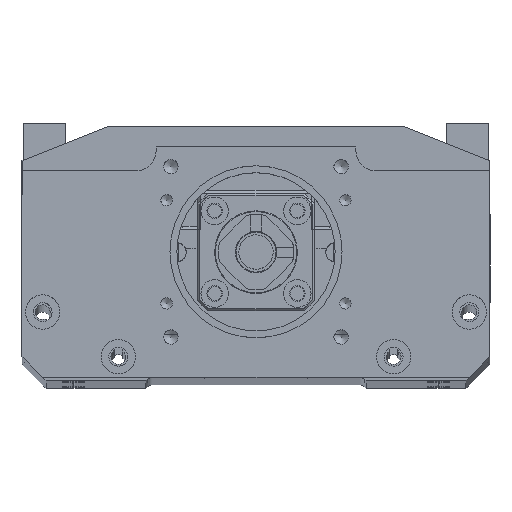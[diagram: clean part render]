
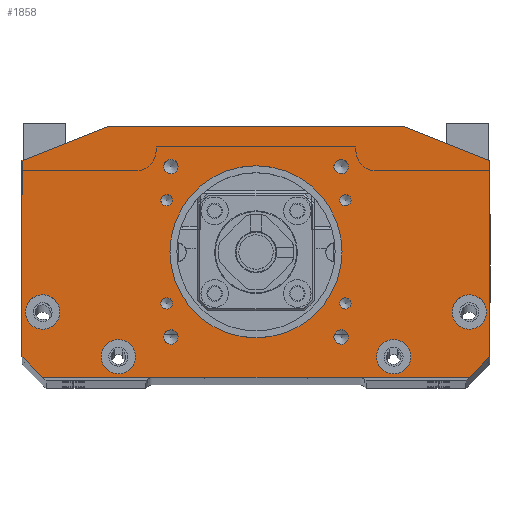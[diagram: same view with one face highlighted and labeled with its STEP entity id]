
A CAD part, top view. The second image highlights one B-rep face of the part: STEP entity #1858.
In plain terms, the highlighted planar face has unit normal (0, 0, 1).
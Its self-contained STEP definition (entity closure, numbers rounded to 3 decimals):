
#396=FACE_BOUND('',#3698,.T.);
#397=FACE_BOUND('',#3699,.T.);
#398=FACE_BOUND('',#3700,.T.);
#399=FACE_BOUND('',#3701,.T.);
#400=FACE_BOUND('',#3702,.T.);
#401=FACE_BOUND('',#3703,.T.);
#402=FACE_BOUND('',#3704,.T.);
#403=FACE_BOUND('',#3705,.T.);
#404=FACE_BOUND('',#3706,.T.);
#405=FACE_BOUND('',#3707,.T.);
#406=FACE_BOUND('',#3708,.T.);
#407=FACE_BOUND('',#3709,.T.);
#408=FACE_BOUND('',#3710,.T.);
#409=FACE_BOUND('',#3711,.T.);
#1858=ADVANCED_FACE('9',(#396,#397,#398,#399,#400,#401,#402,#403,#404,#405,
#406,#407,#408,#409),#2528,.T.);
#2528=PLANE('',#15617);
#3698=EDGE_LOOP('',(#6952));
#3699=EDGE_LOOP('',(#6953));
#3700=EDGE_LOOP('',(#6954));
#3701=EDGE_LOOP('',(#6955));
#3702=EDGE_LOOP('',(#6956));
#3703=EDGE_LOOP('',(#6957));
#3704=EDGE_LOOP('',(#6958));
#3705=EDGE_LOOP('',(#6959));
#3706=EDGE_LOOP('',(#6960));
#3707=EDGE_LOOP('',(#6961));
#3708=EDGE_LOOP('',(#6962));
#3709=EDGE_LOOP('',(#6963));
#3710=EDGE_LOOP('',(#6964));
#3711=EDGE_LOOP('',(#6965,#6966,#6967,#6968,#6969,#6970,#6971,#6972));
#4936=CIRCLE('',#15555,1.65);
#4938=CIRCLE('',#15559,1.65);
#4940=CIRCLE('',#15563,1.65);
#4942=CIRCLE('',#15567,1.65);
#4944=CIRCLE('',#15571,2.1);
#4946=CIRCLE('',#15575,2.1);
#4948=CIRCLE('',#15579,2.1);
#4950=CIRCLE('',#15583,2.1);
#4952=CIRCLE('',#15587,25.);
#4954=CIRCLE('',#15590,5.);
#4958=CIRCLE('',#15596,5.);
#4962=CIRCLE('',#15602,5.);
#4966=CIRCLE('',#15608,5.);
#6952=ORIENTED_EDGE('',*,*,#11927,.F.);
#6953=ORIENTED_EDGE('',*,*,#11929,.F.);
#6954=ORIENTED_EDGE('',*,*,#11931,.F.);
#6955=ORIENTED_EDGE('',*,*,#11933,.F.);
#6956=ORIENTED_EDGE('',*,*,#11935,.F.);
#6957=ORIENTED_EDGE('',*,*,#11937,.F.);
#6958=ORIENTED_EDGE('',*,*,#11939,.F.);
#6959=ORIENTED_EDGE('',*,*,#11941,.F.);
#6960=ORIENTED_EDGE('',*,*,#11943,.F.);
#6961=ORIENTED_EDGE('',*,*,#11945,.F.);
#6962=ORIENTED_EDGE('',*,*,#11949,.F.);
#6963=ORIENTED_EDGE('',*,*,#11953,.F.);
#6964=ORIENTED_EDGE('',*,*,#11957,.F.);
#6965=ORIENTED_EDGE('',*,*,#11265,.F.);
#6966=ORIENTED_EDGE('',*,*,#11966,.T.);
#6967=ORIENTED_EDGE('',*,*,#11965,.F.);
#6968=ORIENTED_EDGE('',*,*,#11967,.T.);
#6969=ORIENTED_EDGE('',*,*,#11328,.F.);
#6970=ORIENTED_EDGE('',*,*,#11320,.T.);
#6971=ORIENTED_EDGE('',*,*,#11306,.F.);
#6972=ORIENTED_EDGE('',*,*,#11291,.T.);
#9747=VERTEX_POINT('',#21741);
#9748=VERTEX_POINT('',#21743);
#9765=VERTEX_POINT('',#21788);
#9775=VERTEX_POINT('',#21816);
#9783=VERTEX_POINT('',#21841);
#9787=VERTEX_POINT('',#21855);
#10177=VERTEX_POINT('',#24402);
#10180=VERTEX_POINT('',#24409);
#10183=VERTEX_POINT('',#24416);
#10186=VERTEX_POINT('',#24423);
#10189=VERTEX_POINT('',#24430);
#10192=VERTEX_POINT('',#24437);
#10195=VERTEX_POINT('',#24444);
#10198=VERTEX_POINT('',#24451);
#10201=VERTEX_POINT('',#24458);
#10203=VERTEX_POINT('',#24463);
#10206=VERTEX_POINT('',#24472);
#10209=VERTEX_POINT('',#24481);
#10212=VERTEX_POINT('',#24490);
#10216=VERTEX_POINT('',#24502);
#10218=VERTEX_POINT('',#24506);
#11265=EDGE_CURVE('',#9747,#9748,#13123,.T.);
#11291=EDGE_CURVE('',#9765,#9748,#13147,.T.);
#11306=EDGE_CURVE('',#9765,#9775,#13160,.T.);
#11320=EDGE_CURVE('',#9783,#9775,#13172,.T.);
#11328=EDGE_CURVE('',#9783,#9787,#13178,.T.);
#11927=EDGE_CURVE('',#10177,#10177,#4936,.T.);
#11929=EDGE_CURVE('',#10180,#10180,#4938,.T.);
#11931=EDGE_CURVE('',#10183,#10183,#4940,.T.);
#11933=EDGE_CURVE('',#10186,#10186,#4942,.T.);
#11935=EDGE_CURVE('',#10189,#10189,#4944,.T.);
#11937=EDGE_CURVE('',#10192,#10192,#4946,.T.);
#11939=EDGE_CURVE('',#10195,#10195,#4948,.T.);
#11941=EDGE_CURVE('',#10198,#10198,#4950,.T.);
#11943=EDGE_CURVE('',#10201,#10201,#4952,.T.);
#11945=EDGE_CURVE('',#10203,#10203,#4954,.T.);
#11949=EDGE_CURVE('',#10206,#10206,#4958,.T.);
#11953=EDGE_CURVE('',#10209,#10209,#4962,.T.);
#11957=EDGE_CURVE('',#10212,#10212,#4966,.T.);
#11965=EDGE_CURVE('',#10218,#10216,#13464,.T.);
#11966=EDGE_CURVE('',#9747,#10216,#13465,.T.);
#11967=EDGE_CURVE('',#10218,#9787,#13466,.T.);
#13123=LINE('',#21742,#14138);
#13147=LINE('',#21787,#14162);
#13160=LINE('',#21815,#14175);
#13172=LINE('',#21840,#14187);
#13178=LINE('',#21854,#14193);
#13464=LINE('',#24507,#14479);
#13465=LINE('',#24509,#14480);
#13466=LINE('',#24510,#14481);
#14138=VECTOR('',#17256,1.);
#14162=VECTOR('',#17288,1.);
#14175=VECTOR('',#17311,1.);
#14187=VECTOR('',#17333,1.);
#14193=VECTOR('',#17347,1.);
#14479=VECTOR('',#18519,1.);
#14480=VECTOR('',#18522,1.);
#14481=VECTOR('',#18523,1.);
#15555=AXIS2_PLACEMENT_3D('',#24401,#18394,#18395);
#15559=AXIS2_PLACEMENT_3D('',#24408,#18402,#18403);
#15563=AXIS2_PLACEMENT_3D('',#24415,#18410,#18411);
#15567=AXIS2_PLACEMENT_3D('',#24422,#18418,#18419);
#15571=AXIS2_PLACEMENT_3D('',#24429,#18426,#18427);
#15575=AXIS2_PLACEMENT_3D('',#24436,#18434,#18435);
#15579=AXIS2_PLACEMENT_3D('',#24443,#18442,#18443);
#15583=AXIS2_PLACEMENT_3D('',#24450,#18450,#18451);
#15587=AXIS2_PLACEMENT_3D('',#24457,#18458,#18459);
#15590=AXIS2_PLACEMENT_3D('',#24462,#18464,#18465);
#15596=AXIS2_PLACEMENT_3D('',#24471,#18476,#18477);
#15602=AXIS2_PLACEMENT_3D('',#24480,#18488,#18489);
#15608=AXIS2_PLACEMENT_3D('',#24489,#18500,#18501);
#15617=AXIS2_PLACEMENT_3D('',#24511,#18524,#18525);
#17256=DIRECTION('',(0.,-1.,0.));
#17288=DIRECTION('',(0.707,0.707,0.));
#17311=DIRECTION('',(-1.,0.,0.));
#17333=DIRECTION('',(0.707,-0.707,0.));
#17347=DIRECTION('',(0.,1.,0.));
#18394=DIRECTION('',(0.,0.,1.));
#18395=DIRECTION('',(1.,0.,0.));
#18402=DIRECTION('',(0.,0.,1.));
#18403=DIRECTION('',(1.,0.,0.));
#18410=DIRECTION('',(0.,0.,1.));
#18411=DIRECTION('',(1.,0.,0.));
#18418=DIRECTION('',(0.,0.,1.));
#18419=DIRECTION('',(1.,0.,0.));
#18426=DIRECTION('',(0.,0.,1.));
#18427=DIRECTION('',(1.,0.,0.));
#18434=DIRECTION('',(0.,0.,1.));
#18435=DIRECTION('',(1.,0.,0.));
#18442=DIRECTION('',(0.,0.,1.));
#18443=DIRECTION('',(1.,0.,0.));
#18450=DIRECTION('',(0.,0.,1.));
#18451=DIRECTION('',(1.,0.,0.));
#18458=DIRECTION('',(0.,0.,1.));
#18459=DIRECTION('',(1.,0.,0.));
#18464=DIRECTION('',(0.,0.,1.));
#18465=DIRECTION('',(1.,0.,0.));
#18476=DIRECTION('',(0.,0.,1.));
#18477=DIRECTION('',(1.,0.,0.));
#18488=DIRECTION('',(0.,0.,1.));
#18489=DIRECTION('',(1.,0.,0.));
#18500=DIRECTION('',(0.,0.,1.));
#18501=DIRECTION('',(1.,0.,0.));
#18519=DIRECTION('',(1.,0.,0.));
#18522=DIRECTION('',(-0.928,0.371,0.));
#18523=DIRECTION('',(-0.928,-0.371,0.));
#18524=DIRECTION('',(0.,0.,1.));
#18525=DIRECTION('',(-1.,0.,0.));
#21741=CARTESIAN_POINT('',(68.,63.,180.));
#21742=CARTESIAN_POINT('',(68.,0.,180.));
#21743=CARTESIAN_POINT('',(68.,6.,180.));
#21787=CARTESIAN_POINT('',(49.25,-12.75,180.));
#21788=CARTESIAN_POINT('',(62.,0.,180.));
#21815=CARTESIAN_POINT('',(68.,0.,180.));
#21816=CARTESIAN_POINT('',(-62.,0.,180.));
#21840=CARTESIAN_POINT('',(-49.25,-12.75,180.));
#21841=CARTESIAN_POINT('',(-68.,6.,180.));
#21854=CARTESIAN_POINT('',(-68.,0.,180.));
#21855=CARTESIAN_POINT('',(-68.,63.,180.));
#24401=CARTESIAN_POINT('',(25.981,51.5,180.));
#24402=CARTESIAN_POINT('',(27.631,51.5,180.));
#24408=CARTESIAN_POINT('',(25.981,21.5,180.));
#24409=CARTESIAN_POINT('',(27.631,21.5,180.));
#24415=CARTESIAN_POINT('',(-25.981,21.5,180.));
#24416=CARTESIAN_POINT('',(-24.331,21.5,180.));
#24422=CARTESIAN_POINT('',(-25.981,51.5,180.));
#24423=CARTESIAN_POINT('',(-24.331,51.5,180.));
#24429=CARTESIAN_POINT('',(-24.749,61.249,180.));
#24430=CARTESIAN_POINT('',(-22.649,61.249,180.));
#24436=CARTESIAN_POINT('',(24.749,61.249,180.));
#24437=CARTESIAN_POINT('',(26.849,61.249,180.));
#24443=CARTESIAN_POINT('',(24.749,11.751,180.));
#24444=CARTESIAN_POINT('',(26.849,11.751,180.));
#24450=CARTESIAN_POINT('',(-24.749,11.751,180.));
#24451=CARTESIAN_POINT('',(-22.649,11.751,180.));
#24457=CARTESIAN_POINT('',(0.,36.5,180.));
#24458=CARTESIAN_POINT('',(25.,36.5,180.));
#24462=CARTESIAN_POINT('',(-62.,19.,180.));
#24463=CARTESIAN_POINT('',(-57.,19.,180.));
#24471=CARTESIAN_POINT('',(62.,19.,180.));
#24472=CARTESIAN_POINT('',(67.,19.,180.));
#24480=CARTESIAN_POINT('',(-40.,6.,180.));
#24481=CARTESIAN_POINT('',(-35.,6.,180.));
#24489=CARTESIAN_POINT('',(40.,6.,180.));
#24490=CARTESIAN_POINT('',(45.,6.,180.));
#24502=CARTESIAN_POINT('',(43.,73.,180.));
#24506=CARTESIAN_POINT('',(-43.,73.,180.));
#24507=CARTESIAN_POINT('',(68.,73.,180.));
#24509=CARTESIAN_POINT('',(18.517,82.793,180.));
#24510=CARTESIAN_POINT('',(-18.517,82.793,180.));
#24511=CARTESIAN_POINT('',(0.,36.5,180.));
